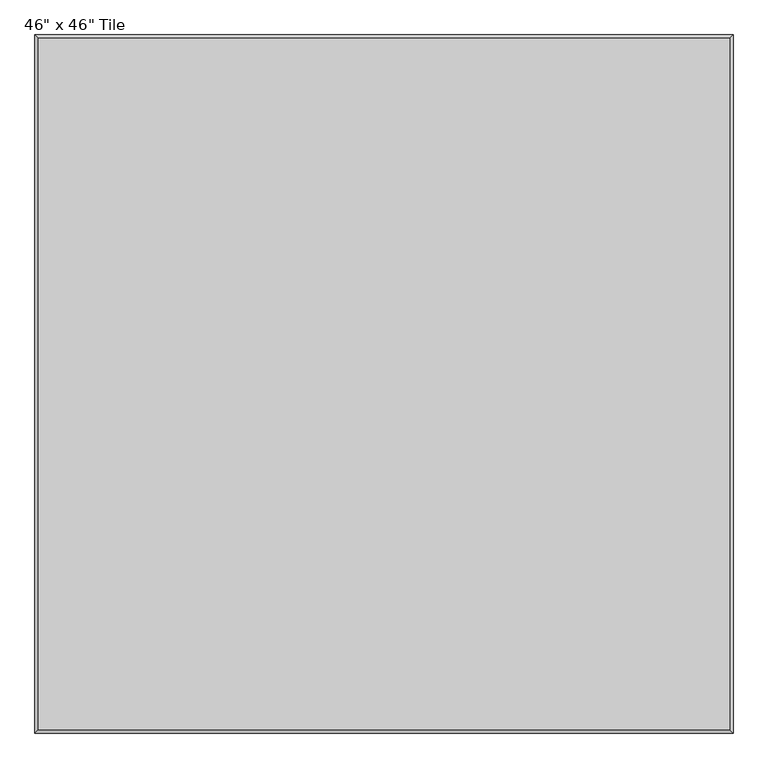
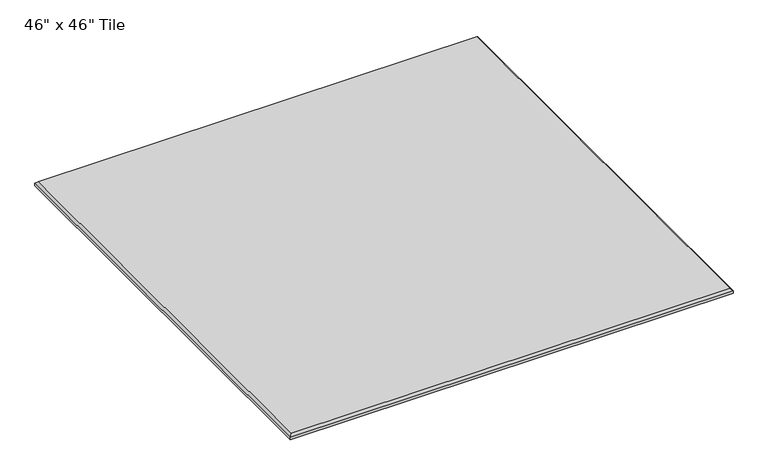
"""IFC4 building model written with IfcOpenShell, lengths in millimetres: proxy geometry."""

from ifc_helpers import new_model, si_unit, origin, place, context, project, spatial, faceted_brep, source, transform, mapped, element, save


def proxy_51484835(model_context):
    return source(origin(), model_context, "Body", "Brep", [
        faceted_brep([(1137.4945313, 578.6945313, 12.0054687), (-19.8945312, 578.6945313, 12.0054687), (-19.8945312, -578.6945312, 12.0054687), (1137.4945313, -578.6945312, 12.0054687), (1143.0, -584.2, 0.0), (-25.4, -584.2, 0.0), (-25.4, 584.2, 0.0), (1143.0, 584.2, 0.0), (1143.0, -584.2, 6.5), (-25.4, -584.2, 6.5), (-25.4, 584.2, 6.5), (1143.0, 584.2, 6.5)], [[[0, 1, 2, 3]], [[4, 5, 6, 7]], [[4, 8, 9, 5]], [[5, 9, 10, 6]], [[6, 10, 11, 7]], [[7, 11, 8, 4]], [[8, 11, 0, 3]], [[3, 2, 9, 8]], [[2, 1, 10, 9]], [[11, 10, 1, 0]]]),
    ])


if __name__ == "__main__":
    model = new_model("IFC4")
    model_context = context("Model", 3, world=origin())
    ifc_project = project(units=[si_unit("LENGTHUNIT", "METRE", prefix="MILLI")], contexts=[model_context])
    site = spatial("IfcSite", under=ifc_project)
    building = spatial("IfcBuilding", under=site)
    placement = place(None, origin())
    proxy_shape = proxy_51484835(model_context)
    element("IfcBuildingElementProxy", 1, Name="Wall-Panel-Kirei-EchoPanel-Echotile_Sync : 46\" x 46\" Tile", ObjectType="Wall-Panel-Kirei-EchoPanel-Echotile_Sync : 46\" x 46\" Tile", at=placement, inside=building, context=model_context, shape_type="MappedRepresentation", body=[
        mapped(proxy_shape, transform((0.0, 0.0, 0.0), x_axis=(1.0, 0.0, 0.0), y_axis=(0.0, 1.0, 0.0), z_axis=(0.0, 0.0, 1.0))),
    ])
    save(model, "model.ifc")
